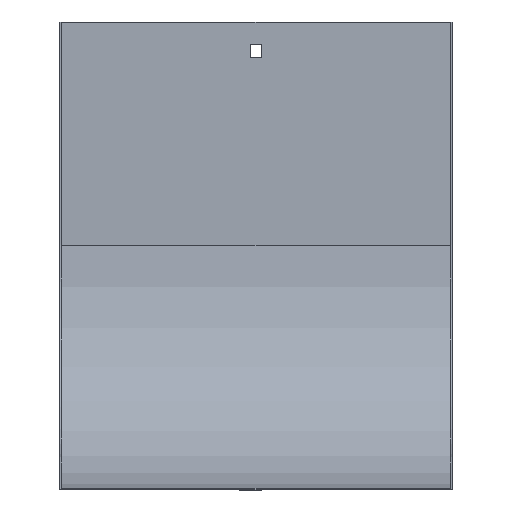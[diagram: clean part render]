
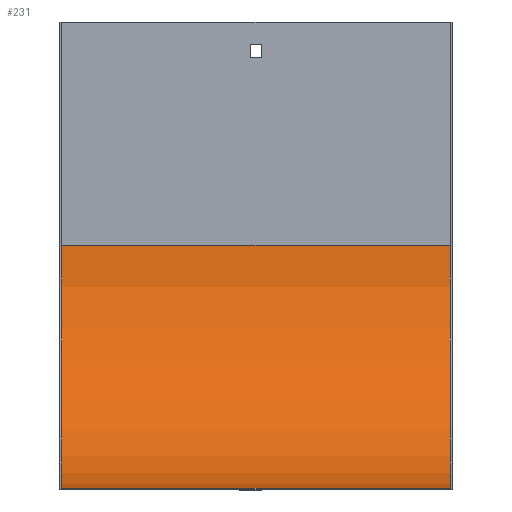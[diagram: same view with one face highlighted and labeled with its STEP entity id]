
A CAD part, front view. The second image highlights one B-rep face of the part: STEP entity #231.
In plain terms, the highlighted cylindrical face has radius 125 mm (diameter 250 mm), a partial arc.
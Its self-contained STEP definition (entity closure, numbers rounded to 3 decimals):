
#23 = ORIENTED_EDGE ( 'NONE', *, *, #570, .F. ) ;
#24 = VECTOR ( 'NONE', #797, 1000. ) ;
#49 = CARTESIAN_POINT ( 'NONE',  ( 101., -1., -115. ) ) ;
#55 = CARTESIAN_POINT ( 'NONE',  ( -100., -126., -115. ) ) ;
#75 = CARTESIAN_POINT ( 'NONE',  ( -100., -126., -240. ) ) ;
#96 = AXIS2_PLACEMENT_3D ( 'NONE', #506, #562, #160 ) ;
#102 = CARTESIAN_POINT ( 'NONE',  ( -100., -1., -115. ) ) ;
#104 = VERTEX_POINT ( 'NONE', #388 ) ;
#160 = DIRECTION ( 'NONE',  ( 0., 0., 1. ) ) ;
#181 = DIRECTION ( 'NONE',  ( 0., 0., 1. ) ) ;
#204 = CARTESIAN_POINT ( 'NONE',  ( 101., -126., -240. ) ) ;
#215 = VERTEX_POINT ( 'NONE', #102 ) ;
#231 = ADVANCED_FACE ( 'NONE', ( #298 ), #432, .F. ) ;
#262 = LINE ( 'NONE', #49, #489 ) ;
#273 = ORIENTED_EDGE ( 'NONE', *, *, #352, .F. ) ;
#281 = CARTESIAN_POINT ( 'NONE',  ( 100., -1., -115. ) ) ;
#298 = FACE_OUTER_BOUND ( 'NONE', #560, .T. ) ;
#310 = AXIS2_PLACEMENT_3D ( 'NONE', #580, #459, #181 ) ;
#325 = AXIS2_PLACEMENT_3D ( 'NONE', #55, #377, #649 ) ;
#352 = EDGE_CURVE ( 'NONE', #684, #215, #697, .T. ) ;
#377 = DIRECTION ( 'NONE',  ( 1., 0., 0. ) ) ;
#388 = CARTESIAN_POINT ( 'NONE',  ( 100., -126., -240. ) ) ;
#392 = LINE ( 'NONE', #204, #24 ) ;
#431 = EDGE_CURVE ( 'NONE', #104, #708, #499, .T. ) ;
#432 = CYLINDRICAL_SURFACE ( 'NONE', #96, 125. ) ;
#433 = ORIENTED_EDGE ( 'NONE', *, *, #561, .T. ) ;
#459 = DIRECTION ( 'NONE',  ( 1., 0., 0. ) ) ;
#489 = VECTOR ( 'NONE', #527, 1000. ) ;
#499 = CIRCLE ( 'NONE', #310, 125. ) ;
#506 = CARTESIAN_POINT ( 'NONE',  ( 101., -126., -115. ) ) ;
#527 = DIRECTION ( 'NONE',  ( -1., 0., 0. ) ) ;
#560 = EDGE_LOOP ( 'NONE', ( #273, #23, #575, #433 ) ) ;
#561 = EDGE_CURVE ( 'NONE', #708, #215, #262, .T. ) ;
#562 = DIRECTION ( 'NONE',  ( -1., 0., 0. ) ) ;
#570 = EDGE_CURVE ( 'NONE', #104, #684, #392, .T. ) ;
#575 = ORIENTED_EDGE ( 'NONE', *, *, #431, .T. ) ;
#580 = CARTESIAN_POINT ( 'NONE',  ( 100., -126., -115. ) ) ;
#649 = DIRECTION ( 'NONE',  ( 0., 0., 1. ) ) ;
#684 = VERTEX_POINT ( 'NONE', #75 ) ;
#697 = CIRCLE ( 'NONE', #325, 125. ) ;
#708 = VERTEX_POINT ( 'NONE', #281 ) ;
#797 = DIRECTION ( 'NONE',  ( -1., 0., 0. ) ) ;
